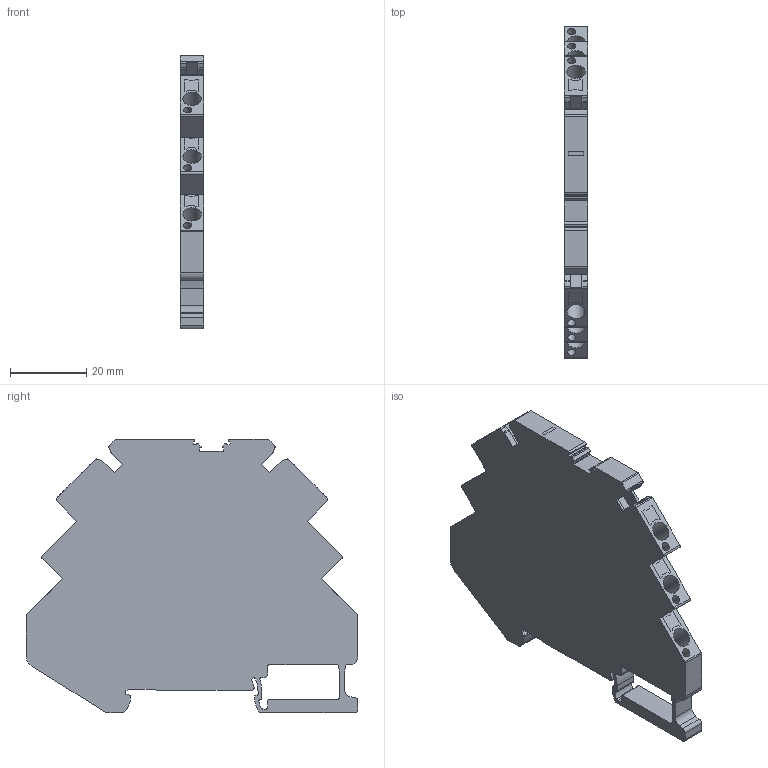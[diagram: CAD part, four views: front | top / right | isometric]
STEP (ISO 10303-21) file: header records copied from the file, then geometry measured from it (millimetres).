
FILE_DESCRIPTION( ('This file contains a STEP AP42 implementation' ,'as created by ZW3D STEP Interface translator.') ,'2;1' );
FILE_NAME( '嫖勷傷赽RTP-S-O-3D耀倰 2022.4.8.stp' ,'24 413. 93728', (''), ('ZWCAD Software Co.'), 'Version 1.0', 'ZW3D to STEP translator', '' );
FILE_SCHEMA(('AUTOMOTIVE_DESIGN { 1 0 10303 214 1 1 1 1 }'));
Length unit declared in the file: millimetre
Products named in the file (2): 0; 嫖勷傷赽RTP-S-O   2022.4.8
Bounding box: 6.15 x 87.22 x 71.98 mm (x, y, z)
Volume: 27338.4 mm3; surface area: 15080.2 mm2
Topology: 8 solids, 8 shells, 398 faces, 1088 edges, 724 vertices
Faces by surface type: plane 307, cylinder 91
Full cylindrical faces by diameter (mm): 2.2 x6
Entity records: 12969 total; most frequent: CARTESIAN_POINT 2253, ORIENTED_EDGE 2176, DIRECTION 2068, EDGE_CURVE 1088, VECTOR 886, LINE 886, VERTEX_POINT 724, AXIS2_PLACEMENT_3D 591
